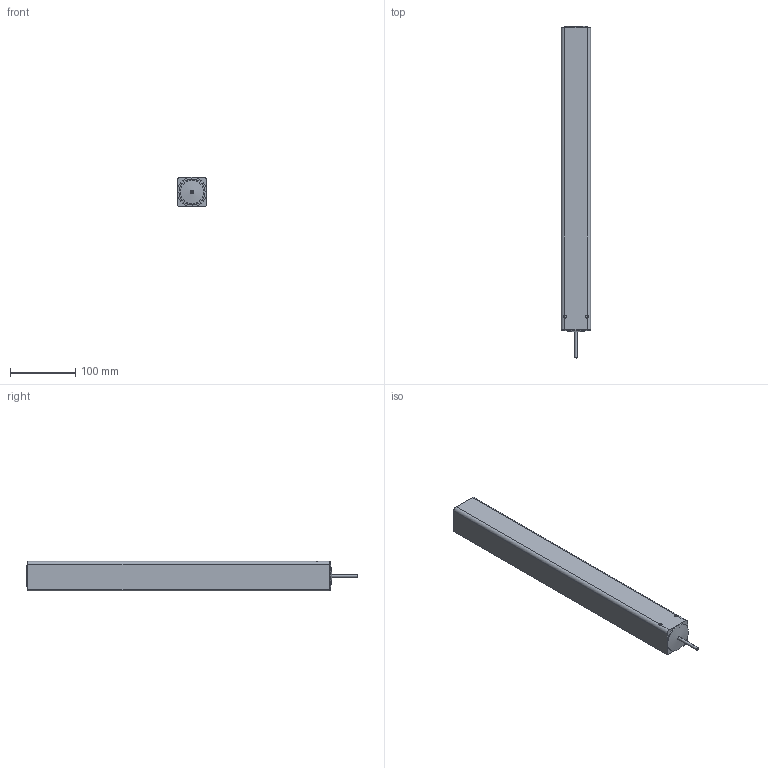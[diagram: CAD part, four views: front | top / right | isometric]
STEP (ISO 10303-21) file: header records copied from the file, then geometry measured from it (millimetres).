
FILE_DESCRIPTION(/* description */ ('Unknown'),/* implementation_level */ '2;1');
FILE_NAME(/* name */ '106.00693 Lineareinheit LG 1830_eingefahren',/* time_stamp */ '2017-11-07T13:49:08+01:00',/* author */ ('Unknown'),/* organization */ ('Unknown'),/* preprocessor_version */ 'ST-DEVELOPER v16.7',/* originating_system */ 'DEX',/* authorisation */ $);
FILE_SCHEMA (('AUTOMOTIVE_DESIGN {1 0 10303 214 3 1 1}'));
Length unit declared in the file: millimetre
Products named in the file (9): 106.00693; 119.00233; 142.00245; 115.00008; 142.00235; 128.00015; 125.00272; 123.00133; 113.00002_70mm
Assembly tree (9 placements, depth 2):
  106.00693
    119.00233
    142.00245  x2
    115.00008
    142.00235
    128.00015
    125.00272
    123.00133
    113.00002_70mm
Bounding box: 45 x 508.5 x 45 mm (x, y, z)
Volume: 492994.8 mm3; surface area: 264225.6 mm2
Topology: 8 solids, 8 shells, 153 faces, 371 edges, 236 vertices
Faces by surface type: plane 56, cylinder 49, cone 22, torus 20, sphere 6
Full cylindrical faces by diameter (mm): 2.2 x1, 4 x7, 4.917 x4, 5 x1, 6.647 x1, 8.376 x1, 28.3 x1, 30 x1, 31.8 x3, 32 x1, 35 x2, 36 x4, 38.9 x1, 39 x1, 44 x1, 45 x1
Entity records: 7336 total; most frequent: CARTESIAN_POINT 3697, DIRECTION 611, ORIENTED_EDGE 490, AXIS2_PLACEMENT_3D 266, EDGE_CURVE 245, EDGE_LOOP 223, FACE_BOUND 223, VERTEX_POINT 186
